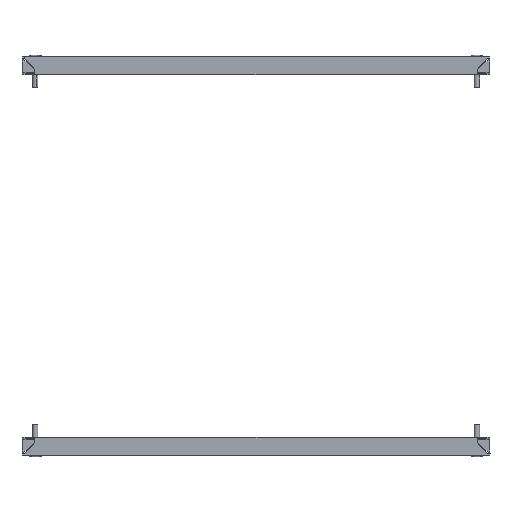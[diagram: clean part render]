
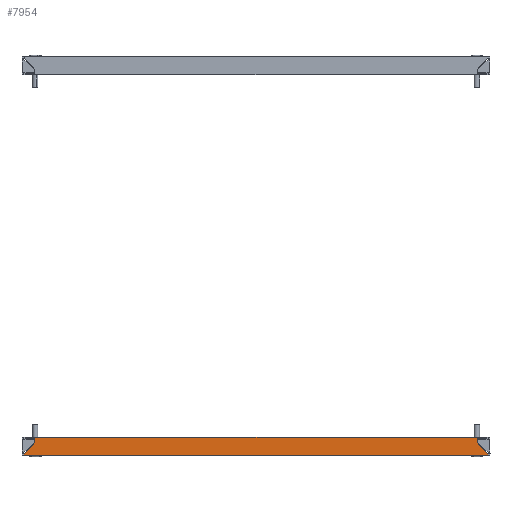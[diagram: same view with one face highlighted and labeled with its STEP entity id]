
A CAD part, front view. The second image highlights one B-rep face of the part: STEP entity #7954.
In plain terms, the highlighted planar face has unit normal (0, -1, 0).
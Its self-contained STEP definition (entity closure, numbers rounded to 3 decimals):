
#1 = CARTESIAN_POINT ( 'NONE',  ( -247.046, -50., 0.6 ) ) ;
#141 = VERTEX_POINT ( 'NONE', #5705 ) ;
#179 = LINE ( 'NONE', #5368, #980 ) ;
#251 = CARTESIAN_POINT ( 'NONE',  ( -247.084, -50., 0.251 ) ) ;
#493 = EDGE_CURVE ( 'NONE', #1686, #141, #8419, .T. ) ;
#572 = CARTESIAN_POINT ( 'NONE',  ( 247.181, -50., -0.799 ) ) ;
#625 = EDGE_CURVE ( 'NONE', #9430, #5820, #5283, .T. ) ;
#646 = CARTESIAN_POINT ( 'NONE',  ( -102.536, -50., 350.182 ) ) ;
#980 = VECTOR ( 'NONE', #2400, 1000. ) ;
#1015 = CARTESIAN_POINT ( 'NONE',  ( -247.046, -50., 0.6 ) ) ;
#1286 = DIRECTION ( 'NONE',  ( 0., 0., 1. ) ) ;
#1427 = DIRECTION ( 'NONE',  ( 0., 1., 0. ) ) ;
#1453 = ORIENTED_EDGE ( 'NONE', *, *, #1802, .T. ) ;
#1476 = EDGE_LOOP ( 'NONE', ( #8696, #6792, #4461, #5697, #6118, #6452, #1453, #9113 ) ) ;
#1611 = DIRECTION ( 'NONE',  ( -1., 0., 0. ) ) ;
#1686 = VERTEX_POINT ( 'NONE', #5587 ) ;
#1802 = EDGE_CURVE ( 'NONE', #9774, #3941, #179, .T. ) ;
#1920 = VECTOR ( 'NONE', #9172, 1000. ) ;
#2024 = VECTOR ( 'NONE', #1611, 1000. ) ;
#2168 = EDGE_CURVE ( 'NONE', #5820, #3941, #3340, .T. ) ;
#2188 = FACE_OUTER_BOUND ( 'NONE', #1476, .T. ) ;
#2195 = CARTESIAN_POINT ( 'NONE',  ( 247.204, -50., -1.149 ) ) ;
#2296 = VECTOR ( 'NONE', #7605, 1000. ) ;
#2400 = DIRECTION ( 'NONE',  ( 1., 0., 0. ) ) ;
#2420 = LINE ( 'NONE', #3114, #2024 ) ;
#2570 = VECTOR ( 'NONE', #7618, 1000. ) ;
#2981 = VERTEX_POINT ( 'NONE', #3624 ) ;
#3114 = CARTESIAN_POINT ( 'NONE',  ( 0., -50., 17.5 ) ) ;
#3340 = B_SPLINE_CURVE_WITH_KNOTS ( 'NONE', 3,
 ( #5204, #3698, #9888, #572, #2195, #3653 ),
 .UNSPECIFIED., .F., .F.,
 ( 4, 2, 4 ),
 ( 0.005, 0.006, 0.008 ),
 .UNSPECIFIED. ) ;
#3412 = CARTESIAN_POINT ( 'NONE',  ( -247.223, -50., -1.5 ) ) ;
#3555 = LINE ( 'NONE', #4513, #2296 ) ;
#3624 = CARTESIAN_POINT ( 'NONE',  ( -236., -50., 17.5 ) ) ;
#3653 = CARTESIAN_POINT ( 'NONE',  ( 247.223, -50., -1.5 ) ) ;
#3698 = CARTESIAN_POINT ( 'NONE',  ( 247.084, -50., 0.251 ) ) ;
#3727 = CARTESIAN_POINT ( 'NONE',  ( -247.204, -50., -1.149 ) ) ;
#3941 = VERTEX_POINT ( 'NONE', #4430 ) ;
#4430 = CARTESIAN_POINT ( 'NONE',  ( 247.223, -50., -1.5 ) ) ;
#4461 = ORIENTED_EDGE ( 'NONE', *, *, #9539, .T. ) ;
#4493 = DIRECTION ( 'NONE',  ( 0., 0., 1. ) ) ;
#4513 = CARTESIAN_POINT ( 'NONE',  ( -236., -50., 11.646 ) ) ;
#4733 = EDGE_CURVE ( 'NONE', #9430, #7392, #5107, .T. ) ;
#5107 = LINE ( 'NONE', #8838, #6788 ) ;
#5204 = CARTESIAN_POINT ( 'NONE',  ( 247.046, -50., 0.6 ) ) ;
#5254 = PLANE ( 'NONE',  #9236 ) ;
#5283 = LINE ( 'NONE', #646, #2570 ) ;
#5287 = CARTESIAN_POINT ( 'NONE',  ( -247.223, -50., -1.5 ) ) ;
#5368 = CARTESIAN_POINT ( 'NONE',  ( 0., -50., -1.5 ) ) ;
#5481 = EDGE_CURVE ( 'NONE', #2981, #141, #3555, .T. ) ;
#5587 = CARTESIAN_POINT ( 'NONE',  ( -247.046, -50., 0.6 ) ) ;
#5697 = ORIENTED_EDGE ( 'NONE', *, *, #5481, .T. ) ;
#5705 = CARTESIAN_POINT ( 'NONE',  ( -236., -50., 11.646 ) ) ;
#5820 = VERTEX_POINT ( 'NONE', #8880 ) ;
#6118 = ORIENTED_EDGE ( 'NONE', *, *, #493, .F. ) ;
#6452 = ORIENTED_EDGE ( 'NONE', *, *, #8272, .T. ) ;
#6654 = B_SPLINE_CURVE_WITH_KNOTS ( 'NONE', 3,
 ( #1015, #251, #8717, #9715, #3727, #5287 ),
 .UNSPECIFIED., .F., .F.,
 ( 4, 2, 4 ),
 ( 0.005, 0.006, 0.008 ),
 .UNSPECIFIED. ) ;
#6788 = VECTOR ( 'NONE', #1286, 1000. ) ;
#6792 = ORIENTED_EDGE ( 'NONE', *, *, #4733, .T. ) ;
#7392 = VERTEX_POINT ( 'NONE', #7461 ) ;
#7461 = CARTESIAN_POINT ( 'NONE',  ( 236., -50., 17.5 ) ) ;
#7605 = DIRECTION ( 'NONE',  ( 0., 0., -1. ) ) ;
#7618 = DIRECTION ( 'NONE',  ( 0.707, 0., -0.707 ) ) ;
#7954 = ADVANCED_FACE ( 'NONE', ( #2188 ), #5254, .F. ) ;
#8272 = EDGE_CURVE ( 'NONE', #1686, #9774, #6654, .T. ) ;
#8332 = CARTESIAN_POINT ( 'NONE',  ( 0., -50., 0. ) ) ;
#8419 = LINE ( 'NONE', #1, #1920 ) ;
#8696 = ORIENTED_EDGE ( 'NONE', *, *, #625, .F. ) ;
#8717 = CARTESIAN_POINT ( 'NONE',  ( -247.121, -50., -0.099 ) ) ;
#8838 = CARTESIAN_POINT ( 'NONE',  ( 236., -50., 11.646 ) ) ;
#8880 = CARTESIAN_POINT ( 'NONE',  ( 247.046, -50., 0.6 ) ) ;
#9113 = ORIENTED_EDGE ( 'NONE', *, *, #2168, .F. ) ;
#9172 = DIRECTION ( 'NONE',  ( 0.707, 0., 0.707 ) ) ;
#9236 = AXIS2_PLACEMENT_3D ( 'NONE', #8332, #1427, #4493 ) ;
#9430 = VERTEX_POINT ( 'NONE', #9870 ) ;
#9539 = EDGE_CURVE ( 'NONE', #7392, #2981, #2420, .T. ) ;
#9715 = CARTESIAN_POINT ( 'NONE',  ( -247.181, -50., -0.799 ) ) ;
#9774 = VERTEX_POINT ( 'NONE', #3412 ) ;
#9870 = CARTESIAN_POINT ( 'NONE',  ( 236., -50., 11.646 ) ) ;
#9888 = CARTESIAN_POINT ( 'NONE',  ( 247.121, -50., -0.099 ) ) ;
